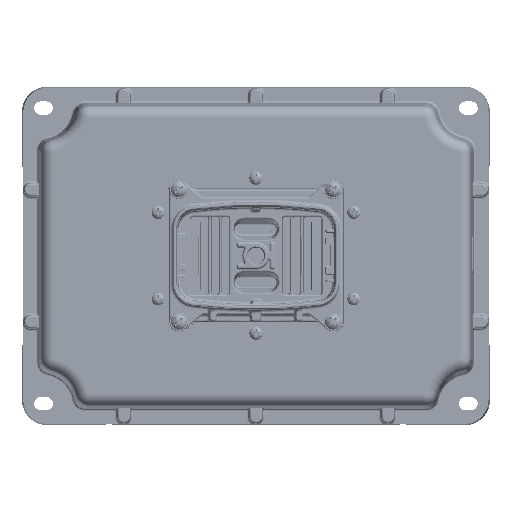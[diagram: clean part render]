
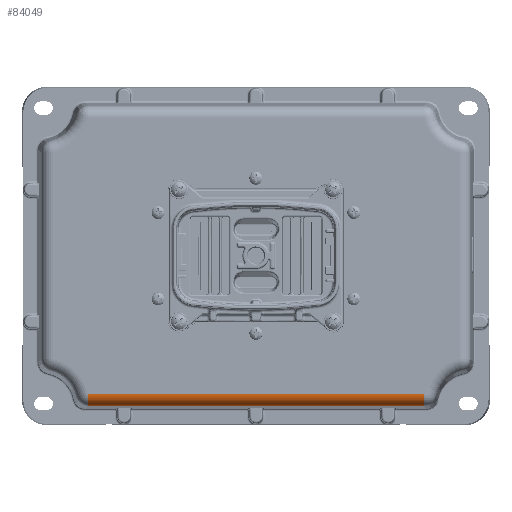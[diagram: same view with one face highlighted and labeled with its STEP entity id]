
A CAD part, top view. The second image highlights one B-rep face of the part: STEP entity #84049.
In plain terms, the highlighted cylindrical face has radius 6.35 mm (diameter 12.7 mm), a partial arc.
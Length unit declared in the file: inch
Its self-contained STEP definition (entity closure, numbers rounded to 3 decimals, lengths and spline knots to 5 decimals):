
#4004=CYLINDRICAL_SURFACE('',#90069,0.25);
#6239=LINE('',#153050,#12839);
#6509=LINE('',#158144,#13109);
#12839=VECTOR('',#100367,0.3937);
#13109=VECTOR('',#101685,0.3937);
#19931=FACE_OUTER_BOUND('',#24741,.T.);
#24741=EDGE_LOOP('',(#58744,#58745,#58746,#58747));
#29629=CIRCLE('',#90070,0.25);
#29630=CIRCLE('',#90071,0.25);
#33677=VERTEX_POINT('',#153044);
#33678=VERTEX_POINT('',#153049);
#34011=VERTEX_POINT('',#158135);
#34013=VERTEX_POINT('',#158141);
#42459=EDGE_CURVE('',#33678,#33677,#6239,.T.);
#43061=EDGE_CURVE('',#34013,#33678,#29629,.T.);
#43062=EDGE_CURVE('',#33677,#34011,#29630,.T.);
#43063=EDGE_CURVE('',#34011,#34013,#6509,.T.);
#58744=ORIENTED_EDGE('',*,*,#43061,.T.);
#58745=ORIENTED_EDGE('',*,*,#42459,.T.);
#58746=ORIENTED_EDGE('',*,*,#43062,.T.);
#58747=ORIENTED_EDGE('',*,*,#43063,.T.);
#84049=ADVANCED_FACE('',(#19931),#4004,.T.);
#90069=AXIS2_PLACEMENT_3D('',#158140,#101679,#101680);
#90070=AXIS2_PLACEMENT_3D('',#158142,#101681,#101682);
#90071=AXIS2_PLACEMENT_3D('',#158143,#101683,#101684);
#100367=DIRECTION('',(1.,0.,0.));
#101679=DIRECTION('center_axis',(1.,0.,0.));
#101680=DIRECTION('ref_axis',(0.,-0.688,0.725));
#101681=DIRECTION('center_axis',(1.,0.,0.));
#101682=DIRECTION('ref_axis',(0.,0.,
1.));
#101683=DIRECTION('center_axis',(-1.,0.,0.));
#101684=DIRECTION('ref_axis',(0.,-0.999,0.052));
#101685=DIRECTION('',(-1.,0.,0.));
#153044=CARTESIAN_POINT('',(3.50169,-3.12742,0.55036));
#153049=CARTESIAN_POINT('',(-3.50169,-3.12742,0.55036));
#153050=CARTESIAN_POINT('',(-1.855,-3.12742,0.55036));
#158135=CARTESIAN_POINT('',(3.50169,-2.87776,0.78727));
#158140=CARTESIAN_POINT('Origin',(-1.855,-2.87776,0.53727));
#158141=CARTESIAN_POINT('',(-3.50169,-2.87776,0.78727));
#158142=CARTESIAN_POINT('Origin',(-3.50169,-2.87776,0.53727));
#158143=CARTESIAN_POINT('Origin',(3.50169,-2.87776,0.53727));
#158144=CARTESIAN_POINT('',(-1.855,-2.87776,0.78727));
